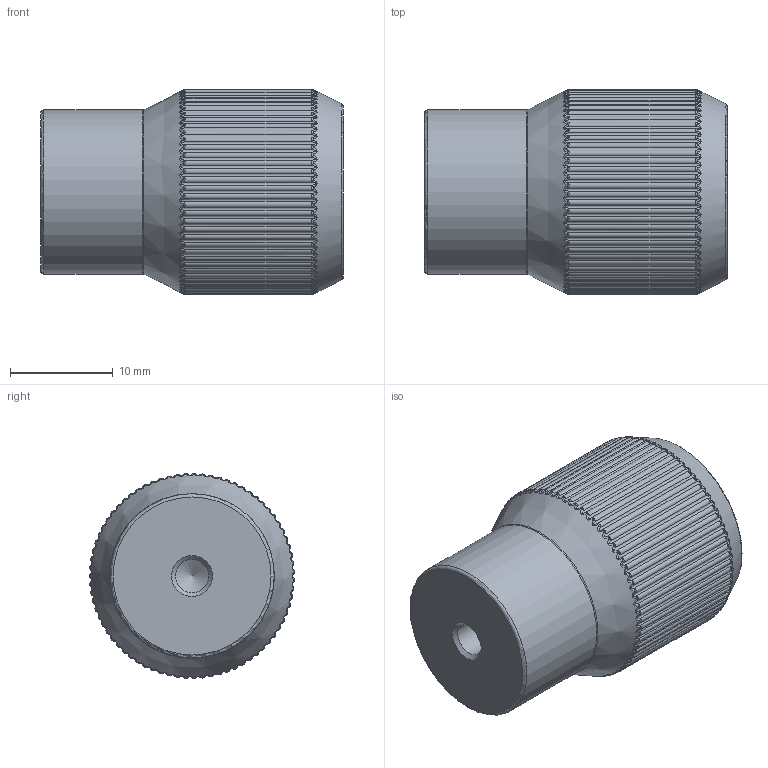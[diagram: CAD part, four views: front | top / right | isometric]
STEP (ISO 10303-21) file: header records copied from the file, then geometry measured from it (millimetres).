
FILE_DESCRIPTION(/* description */ ('STEP AP203'),/* implementation_level */ '2;1');
FILE_NAME(/* name */ '0676_20.stp',/* time_stamp */ '2025-10-23T13:35:38+02:00',/* author */ ('abadia'),/* organization */ (''),/* preprocessor_version */ 'ST-DEVELOPER v20.1',/* originating_system */ 'Autodesk Inventor 2026',/* authorisation */ '');
FILE_SCHEMA (('AUTOMOTIVE_DESIGN { 1 0 10303 214 3 1 1 }'));
Products named in the file (1): Brooklyn Knop 2025 small 20
Bounding box: 29.5 x 19.99 x 20 mm (x, y, z)
Volume: 7614.6 mm3; surface area: 2348.3 mm2
Topology: 1 solids, 1 shells, 461 faces, 1075 edges, 616 vertices
Faces by surface type: bspline 300, cylinder 152, cone 4, torus 3, plane 2
Full cylindrical faces by diameter (mm): 3.242 x1, 16 x1
Entity records: 42827 total; most frequent: CARTESIAN_POINT 34108, ORIENTED_EDGE 2148, DIRECTION 1112, EDGE_CURVE 1074, VERTEX_POINT 616, B_SPLINE_CURVE_WITH_KNOTS 602, AXIS2_PLACEMENT_3D 478, EDGE_LOOP 462
